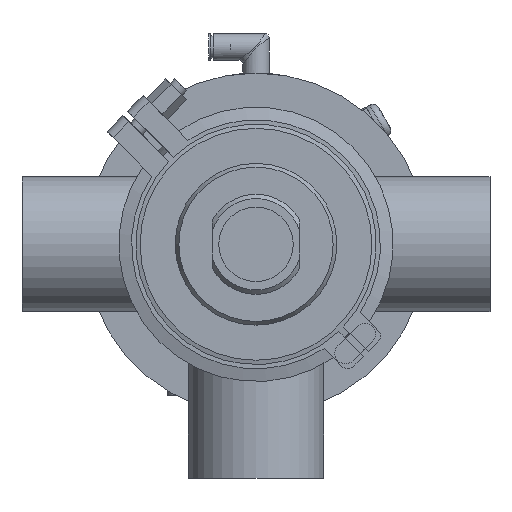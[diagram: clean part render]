
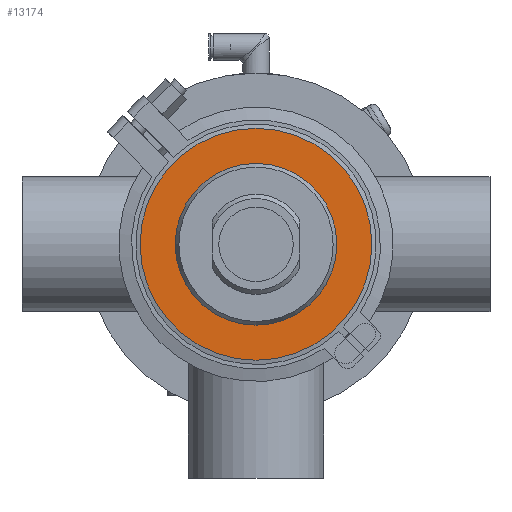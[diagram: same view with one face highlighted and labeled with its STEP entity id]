
A CAD part, front view. The second image highlights one B-rep face of the part: STEP entity #13174.
In plain terms, the highlighted planar face has unit normal (0, -1, 0).
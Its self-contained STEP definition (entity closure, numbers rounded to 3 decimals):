
#2178 = DIRECTION ( 'NONE',  ( 0., 0., 1. ) ) ;
#7247 = DIRECTION ( 'NONE',  ( 0., 1., 0. ) ) ;
#7459 = AXIS2_PLACEMENT_3D ( 'NONE', #23079, #27238, #27859 ) ;
#8954 = CARTESIAN_POINT ( 'NONE',  ( 0., -13., 54.5 ) ) ;
#11711 = EDGE_CURVE ( 'NONE', #39231, #39231, #58925, .T. ) ;
#12928 = FACE_OUTER_BOUND ( 'NONE', #32948, .T. ) ;
#13174 = ADVANCED_FACE ( 'NONE', ( #32290, #12928 ), #33230, .T. ) ;
#13553 = CARTESIAN_POINT ( 'NONE',  ( 0., -13., 38. ) ) ;
#18630 = DIRECTION ( 'NONE',  ( 0., 0., 1. ) ) ;
#18948 = CARTESIAN_POINT ( 'NONE',  ( 0., -13., 0. ) ) ;
#23079 = CARTESIAN_POINT ( 'NONE',  ( -54.5, -13., 0. ) ) ;
#23251 = VERTEX_POINT ( 'NONE', #8954 ) ;
#25652 = AXIS2_PLACEMENT_3D ( 'NONE', #26037, #7247, #2178 ) ;
#26037 = CARTESIAN_POINT ( 'NONE',  ( 0., -13., 0. ) ) ;
#27238 = DIRECTION ( 'NONE',  ( 0., -1., 0. ) ) ;
#27859 = DIRECTION ( 'NONE',  ( 0., 0., -1. ) ) ;
#29482 = AXIS2_PLACEMENT_3D ( 'NONE', #18948, #52486, #18630 ) ;
#32290 = FACE_BOUND ( 'NONE', #34908, .T. ) ;
#32948 = EDGE_LOOP ( 'NONE', ( #48553 ) ) ;
#33230 = PLANE ( 'NONE',  #7459 ) ;
#34908 = EDGE_LOOP ( 'NONE', ( #59302 ) ) ;
#38155 = EDGE_CURVE ( 'NONE', #23251, #23251, #56671, .T. ) ;
#39231 = VERTEX_POINT ( 'NONE', #13553 ) ;
#48553 = ORIENTED_EDGE ( 'NONE', *, *, #38155, .F. ) ;
#52486 = DIRECTION ( 'NONE',  ( 0., 1., 0. ) ) ;
#56671 = CIRCLE ( 'NONE', #29482, 54.5 ) ;
#58925 = CIRCLE ( 'NONE', #25652, 38. ) ;
#59302 = ORIENTED_EDGE ( 'NONE', *, *, #11711, .T. ) ;
